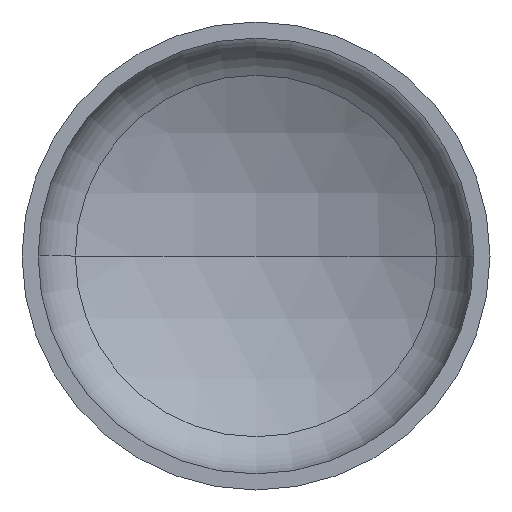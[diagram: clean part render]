
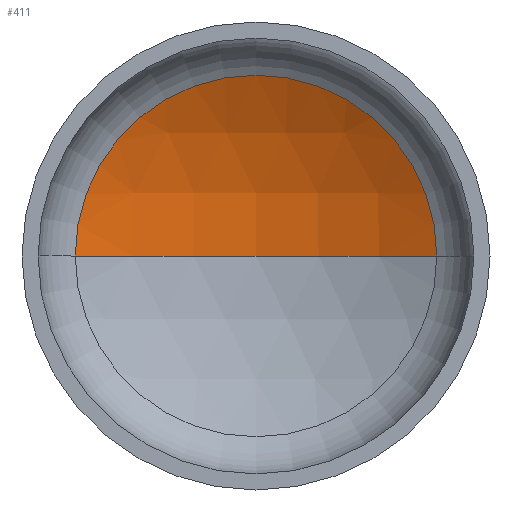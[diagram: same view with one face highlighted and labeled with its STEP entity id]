
A CAD part, front view. The second image highlights one B-rep face of the part: STEP entity #411.
In plain terms, the highlighted spherical face has radius 1120 mm.
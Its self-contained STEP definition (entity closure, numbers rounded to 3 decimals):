
#8 = AXIS2_PLACEMENT_3D ( 'NONE', #290, #404, #117 ) ;
#9 = EDGE_LOOP ( 'NONE', ( #186, #168, #141 ) ) ;
#16 = AXIS2_PLACEMENT_3D ( 'NONE', #338, #80, #294 ) ;
#40 = AXIS2_PLACEMENT_3D ( 'NONE', #208, #310, #308 ) ;
#41 = VERTEX_POINT ( 'NONE', #263 ) ;
#71 = EDGE_CURVE ( 'NONE', #41, #102, #401, .T. ) ;
#80 = DIRECTION ( 'NONE',  ( 0., 0., 1. ) ) ;
#102 = VERTEX_POINT ( 'NONE', #234 ) ;
#117 = DIRECTION ( 'NONE',  ( -1., 0., 0. ) ) ;
#130 = SPHERICAL_SURFACE ( 'NONE', #221, 1120. ) ;
#140 = VERTEX_POINT ( 'NONE', #222 ) ;
#141 = ORIENTED_EDGE ( 'NONE', *, *, #71, .T. ) ;
#142 = FACE_OUTER_BOUND ( 'NONE', #9, .T. ) ;
#168 = ORIENTED_EDGE ( 'NONE', *, *, #364, .T. ) ;
#173 = DIRECTION ( 'NONE',  ( -1., 0., 0. ) ) ;
#175 = CIRCLE ( 'NONE', #8, 1120. ) ;
#186 = ORIENTED_EDGE ( 'NONE', *, *, #343, .F. ) ;
#208 = CARTESIAN_POINT ( 'NONE',  ( 0., 338.273, 0. ) ) ;
#221 = AXIS2_PLACEMENT_3D ( 'NONE', #344, #319, #173 ) ;
#222 = CARTESIAN_POINT ( 'NONE',  ( 0., 477.5, 0. ) ) ;
#234 = CARTESIAN_POINT ( 'NONE',  ( -540.818, 338.273, 0. ) ) ;
#243 = CIRCLE ( 'NONE', #16, 1120. ) ;
#263 = CARTESIAN_POINT ( 'NONE',  ( 540.818, 338.273, 0. ) ) ;
#290 = CARTESIAN_POINT ( 'NONE',  ( 0., -642.5, 0. ) ) ;
#294 = DIRECTION ( 'NONE',  ( 1., 0., 0. ) ) ;
#308 = DIRECTION ( 'NONE',  ( 1., 0., 0. ) ) ;
#310 = DIRECTION ( 'NONE',  ( 0., -1., 0. ) ) ;
#319 = DIRECTION ( 'NONE',  ( 0., 0., -1. ) ) ;
#338 = CARTESIAN_POINT ( 'NONE',  ( 0., -642.5, 0. ) ) ;
#343 = EDGE_CURVE ( 'NONE', #140, #102, #243, .T. ) ;
#344 = CARTESIAN_POINT ( 'NONE',  ( 0., -642.5, 0. ) ) ;
#364 = EDGE_CURVE ( 'NONE', #140, #41, #175, .T. ) ;
#401 = CIRCLE ( 'NONE', #40, 540.818 ) ;
#404 = DIRECTION ( 'NONE',  ( 0., 0., -1. ) ) ;
#411 = ADVANCED_FACE ( 'NONE', ( #142 ), #130, .F. ) ;
